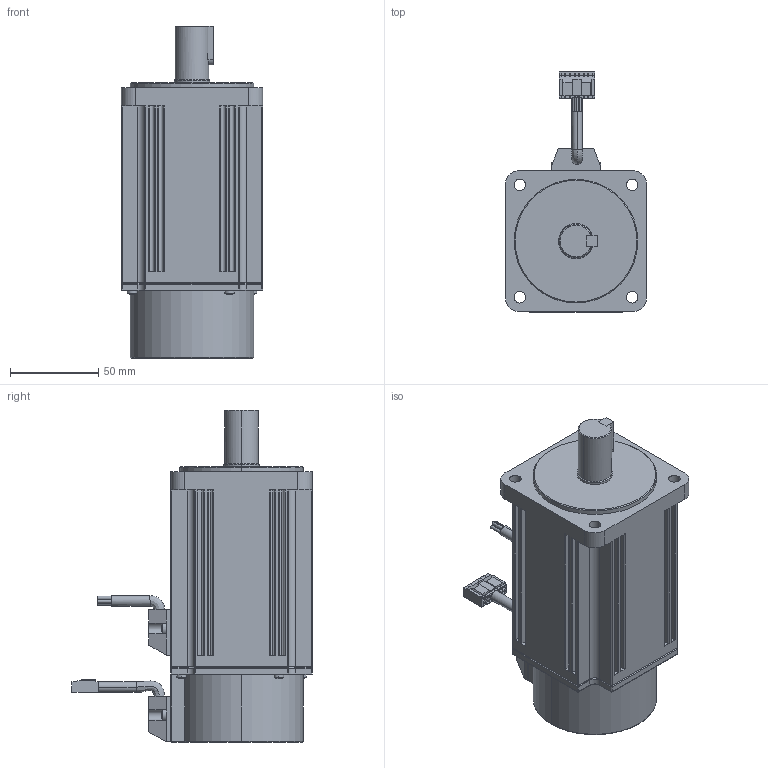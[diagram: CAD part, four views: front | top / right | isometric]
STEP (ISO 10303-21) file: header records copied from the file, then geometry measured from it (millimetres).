
FILE_DESCRIPTION (( 'STEP AP203' ), '1' );
FILE_NAME ('SE080AS-02.STEP', '2017-01-24T02:01:55', ( 'dell' ), ( 'Microsoft' ), 'SwSTEP 2.0', 'SolidWorks 2016', '' );
FILE_SCHEMA (( 'CONFIG_CONTROL_DESIGN' ));
Length unit declared in the file: millimetre
Products named in the file (9): 諉脣璃; SE080AS-02; SE080AS200儂旯; 竘堤盄2; 綴裔; cross recessed small pan head screws gb_GB_CROSS_SCREWS_TYPE3 M4X5-5-N; 揤盄輸; cross recessed small pan head screws gb_GB_CROSS_SCREWS_TYPE3 M3X5-5-N; 竘堤盄1
Assembly tree (15 placements, depth 2):
  SE080AS-02
    SE080AS200儂旯
    綴裔
    揤盄輸  x2
    竘堤盄1
    竘堤盄2
    cross recessed small pan head screws gb_GB_CROSS_SCREWS_TYPE3 M4X5-5-N  x4
    cross recessed small pan head screws gb_GB_CROSS_SCREWS_TYPE3 M3X5-5-N  x4
    諉脣璃
Bounding box: 80 x 136.03 x 188 mm (x, y, z)
Volume: 819190.1 mm3; surface area: 106690 mm2
Topology: 16 solids, 16 shells, 858 faces, 2148 edges, 1371 vertices
Faces by surface type: plane 514, cylinder 273, sphere 34, cone 16, torus 13, bspline 8
Entity records: 21579 total; most frequent: CARTESIAN_POINT 3984, DIRECTION 3488, ORIENTED_EDGE 3320, EDGE_CURVE 1660, AXIS2_PLACEMENT_3D 1171, VECTOR 1146, LINE 1146, VERTEX_POINT 1065
